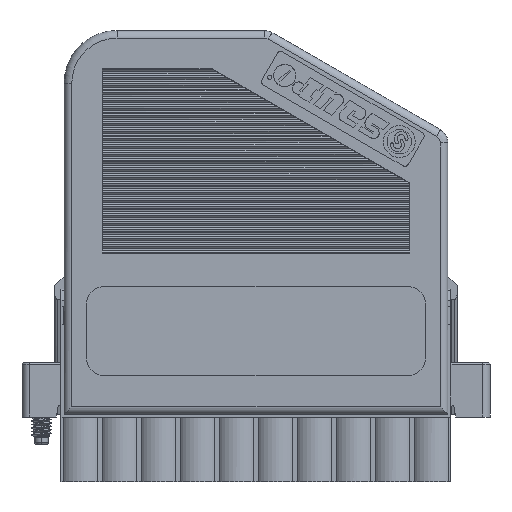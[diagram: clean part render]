
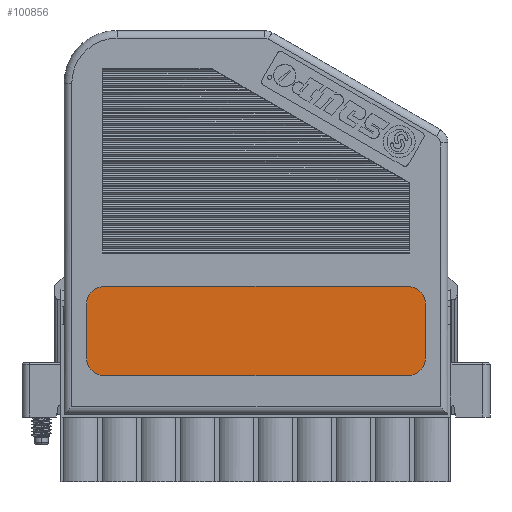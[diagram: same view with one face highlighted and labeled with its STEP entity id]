
A CAD part, front view. The second image highlights one B-rep face of the part: STEP entity #100856.
In plain terms, the highlighted planar face has unit normal (0, -1, 0).
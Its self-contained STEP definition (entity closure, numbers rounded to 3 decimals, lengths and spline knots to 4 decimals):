
#39584=CARTESIAN_POINT('',(-1.7559,0.0059,
0.1969));
#39585=DIRECTION('',(0.,1.,0.));
#39586=DIRECTION('',(0.,0.,-1.));
#39587=AXIS2_PLACEMENT_3D('',#39584,#39585,#39586);
#39589=DIRECTION('',(0.,0.,1.));
#39590=VECTOR('',#39589,0.2638);
#39591=CARTESIAN_POINT('',(-1.8543,0.0059,
0.1969));
#39592=LINE('',#39591,#39590);
#39593=CARTESIAN_POINT('',(-1.7559,0.0059,
0.4606));
#39594=DIRECTION('',(0.,1.,0.));
#39595=DIRECTION('',(-1.,0.,0.));
#39596=AXIS2_PLACEMENT_3D('',#39593,#39594,#39595);
#39598=DIRECTION('',(1.,0.,0.));
#39599=VECTOR('',#39598,1.5433);
#39600=CARTESIAN_POINT('',(-1.7559,0.0059,
0.5591));
#39601=LINE('',#39600,#39599);
#39602=CARTESIAN_POINT('',(-0.2126,0.0059,
0.4606));
#39603=DIRECTION('',(0.,1.,0.));
#39604=DIRECTION('',(0.,0.,1.));
#39605=AXIS2_PLACEMENT_3D('',#39602,#39603,#39604);
#39607=DIRECTION('',(0.,0.,-1.));
#39608=VECTOR('',#39607,0.2638);
#39609=CARTESIAN_POINT('',(-0.1142,0.0059,
0.4606));
#39610=LINE('',#39609,#39608);
#39611=CARTESIAN_POINT('',(-0.2126,0.0059,
0.1969));
#39612=DIRECTION('',(0.,1.,0.));
#39613=DIRECTION('',(1.,0.,0.));
#39614=AXIS2_PLACEMENT_3D('',#39611,#39612,#39613);
#39616=DIRECTION('',(-1.,0.,0.));
#39617=VECTOR('',#39616,1.5433);
#39618=CARTESIAN_POINT('',(-0.2126,0.0059,
0.0984));
#39619=LINE('',#39618,#39617);
#43794=CARTESIAN_POINT('',(-1.8543,0.0059,
0.1969));
#43795=VERTEX_POINT('',#43794);
#43796=CARTESIAN_POINT('',(-1.7559,0.0059,
0.0984));
#43797=VERTEX_POINT('',#43796);
#43798=CARTESIAN_POINT('',(-1.8543,0.0059,
0.4606));
#43799=VERTEX_POINT('',#43798);
#43800=CARTESIAN_POINT('',(-1.7559,0.0059,
0.5591));
#43801=VERTEX_POINT('',#43800);
#43802=CARTESIAN_POINT('',(-0.2126,0.0059,
0.5591));
#43803=VERTEX_POINT('',#43802);
#43804=CARTESIAN_POINT('',(-0.1142,0.0059,
0.4606));
#43805=VERTEX_POINT('',#43804);
#43806=CARTESIAN_POINT('',(-0.1142,0.0059,
0.1969));
#43807=VERTEX_POINT('',#43806);
#43808=CARTESIAN_POINT('',(-0.2126,0.0059,
0.0984));
#43809=VERTEX_POINT('',#43808);
#100841=CARTESIAN_POINT('',(0.,0.0059,0.));
#100842=DIRECTION('',(0.,-1.,0.));
#100843=DIRECTION('',(1.,0.,0.));
#100844=AXIS2_PLACEMENT_3D('',#100841,#100842,#100843);
#100845=PLANE('',#100844);
#100846=ORIENTED_EDGE('',*,*,#100737,.T.);
#100847=ORIENTED_EDGE('',*,*,#100752,.T.);
#100848=ORIENTED_EDGE('',*,*,#100766,.T.);
#100849=ORIENTED_EDGE('',*,*,#100780,.T.);
#100850=ORIENTED_EDGE('',*,*,#100794,.T.);
#100851=ORIENTED_EDGE('',*,*,#100808,.T.);
#100852=ORIENTED_EDGE('',*,*,#100822,.T.);
#100853=ORIENTED_EDGE('',*,*,#100835,.T.);
#100854=EDGE_LOOP('',(#100846,#100847,#100848,#100849,#100850,#100851,#100852,
#100853));
#100855=FACE_OUTER_BOUND('',#100854,.F.);
#100856=ADVANCED_FACE('',(#100855),#100845,.T.);
#39588=CIRCLE('',#39587,0.0984);
#39597=CIRCLE('',#39596,0.0984);
#39606=CIRCLE('',#39605,0.0984);
#39615=CIRCLE('',#39614,0.0984);
#100737=EDGE_CURVE('',#43797,#43795,#39588,.T.);
#100752=EDGE_CURVE('',#43795,#43799,#39592,.T.);
#100766=EDGE_CURVE('',#43799,#43801,#39597,.T.);
#100780=EDGE_CURVE('',#43801,#43803,#39601,.T.);
#100794=EDGE_CURVE('',#43803,#43805,#39606,.T.);
#100808=EDGE_CURVE('',#43805,#43807,#39610,.T.);
#100822=EDGE_CURVE('',#43807,#43809,#39615,.T.);
#100835=EDGE_CURVE('',#43809,#43797,#39619,.T.);
